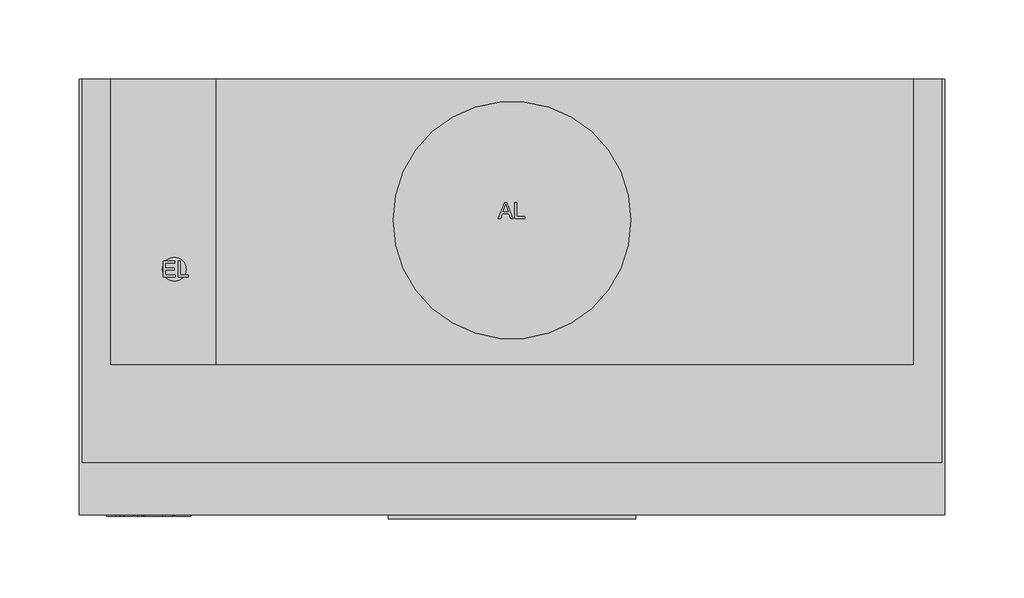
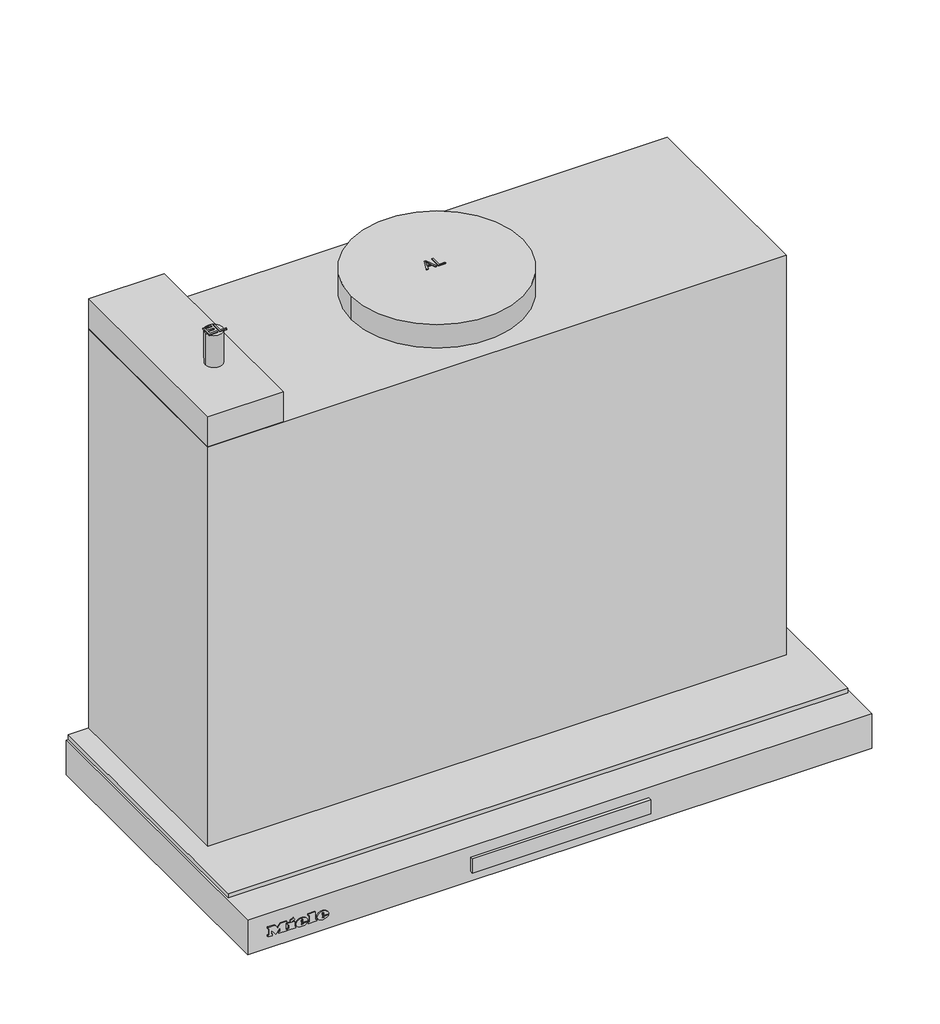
# Not in any storey: 1 proxy.
"""IFC4 building model written with IfcOpenShell, lengths in millimetres."""

from ifc_helpers import new_model, si_unit, origin, place, context, project, spatial, transform, mapped, element, save
from components import specialty_equipment_4cbf8bed

model = new_model("IFC4")

# Units and contexts
model_context = context("Model", 3, world=origin())
ifc_project = project(units=[si_unit("LENGTHUNIT", "METRE", prefix="MILLI")], contexts=[model_context])

# Site, building
site = spatial("IfcSite", under=ifc_project)
building = spatial("IfcBuilding", under=site)

# Proxy
placement = place(None, origin())
specialty_equipment_shape = specialty_equipment_4cbf8bed(model_context)
element("IfcBuildingElementProxy", 1, Name="12541030_CH_DAS4520_MASW : 28S4520M_CH_12541030_DAS4520_MASW", ObjectType="12541030_CH_DAS4520_MASW : 28S4520M_CH_12541030_DAS4520_MASW", at=placement, inside=building, context=model_context, shape_type="MappedRepresentation", body=[
    mapped(specialty_equipment_shape, transform((0.0, 0.0, 0.0), x_axis=(1.0, 0.0, 0.0), y_axis=(0.0, 1.0, 0.0), z_axis=(0.0, 0.0, 1.0))),
])

save(model, "model.ifc")
